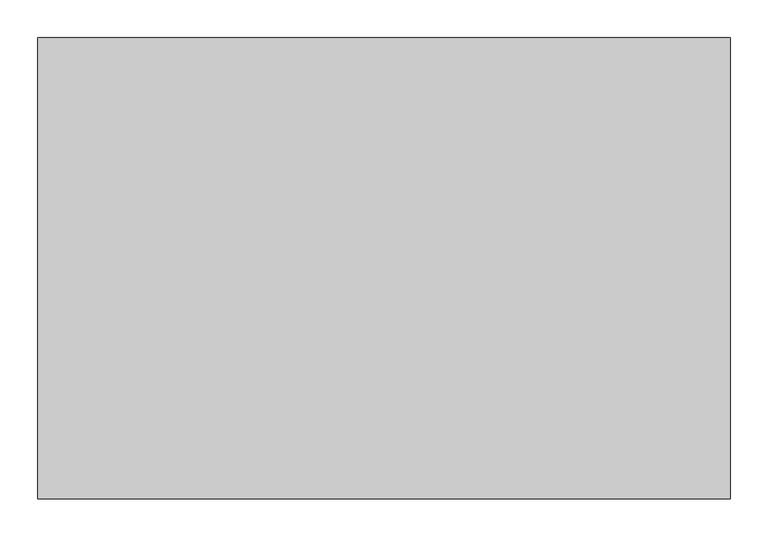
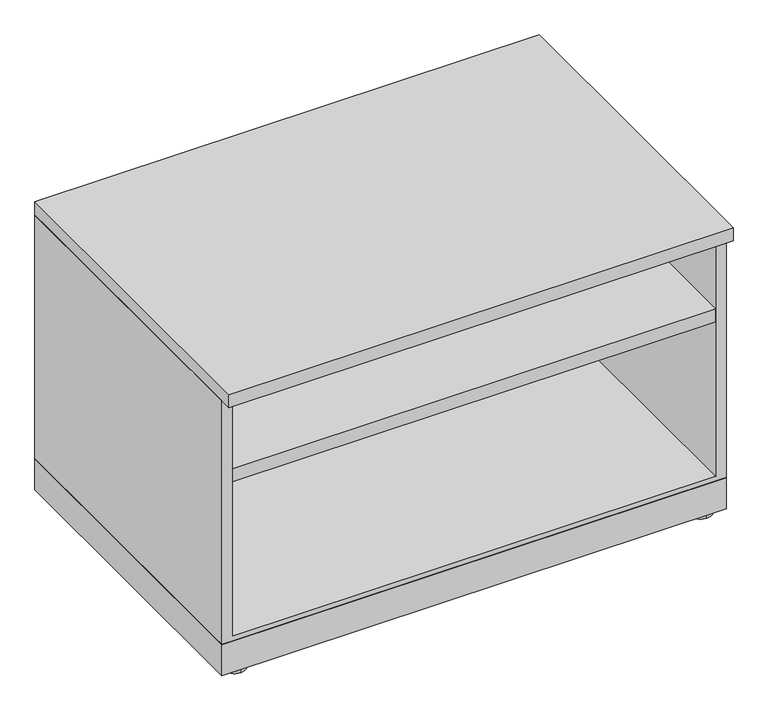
"""IFC4 building model written with IfcOpenShell, lengths in millimetres: furniture geometry, Steelcase - Universal Storage - Lateral File - 1.5 High - Proud Front : Open/Open - 24D x 36W."""

from ifc_helpers import new_model, si_unit, point, frame, frame_2d, origin, origin_with_axes, place, context, project, spatial, polyline, circle_curve, trimmed, segment, composite_curve, outline, extrude, source, transform, mapped, element, save


def furniture_4daecc05(model_context):
    return source(origin(), model_context, "Body", "SweptSolid", [
        extrude(outline(polyline([(914.4, 0.0), (914.4, -587.502), (0.0, -587.502), (0.0, 0.0), (914.4, 0.0)])), frame((0.0, 0.0, 6.3500002), z_axis=(0.0, 0.0, 1.0), x_axis=(1.0, 0.0, 0.0)), (0.0, 0.0, 1.0), 59.6899998),
        extrude(outline(composite_curve([segment(trimmed(circle_curve(frame_2d((879.7290058, -22.3366334)), 20.32), [point((879.7290058, -42.6566334))], [point((879.7290058, -2.0166334))], False, "CARTESIAN"), True, "CONTINUOUS"), segment(trimmed(circle_curve(frame_2d((879.7290058, -22.3366334)), 20.32), [point((879.7290058, -2.0166334))], [point((879.7290058, -42.6566334))], False, "CARTESIAN"), True, "CONTINUOUS")], self_intersect=False)), origin_with_axes(), (0.0, 0.0, 1.0), 6.3500002),
        extrude(outline(composite_curve([segment(trimmed(circle_curve(frame_2d((879.7290058, -566.7528545)), 20.32), [point((879.7290058, -587.0728545))], [point((879.7290058, -546.4328545))], False, "CARTESIAN"), True, "CONTINUOUS"), segment(trimmed(circle_curve(frame_2d((879.7290058, -566.7528545)), 20.32), [point((879.7290058, -546.4328545))], [point((879.7290058, -587.0728545))], False, "CARTESIAN"), True, "CONTINUOUS")], self_intersect=False)), origin_with_axes(), (0.0, 0.0, 1.0), 6.3500002),
        extrude(outline(composite_curve([segment(trimmed(circle_curve(frame_2d((34.29, -22.3366334)), 20.32), [point((34.29, -2.0166334))], [point((34.29, -42.6566334))], False, "CARTESIAN"), True, "CONTINUOUS"), segment(trimmed(circle_curve(frame_2d((34.29, -22.3366334)), 20.32), [point((34.29, -42.6566334))], [point((34.29, -2.0166334))], False, "CARTESIAN"), True, "CONTINUOUS")], self_intersect=False)), origin_with_axes(), (0.0, 0.0, 1.0), 6.3500002),
        extrude(outline(composite_curve([segment(trimmed(circle_curve(frame_2d((34.29, -566.7528545)), 20.32), [point((34.29, -546.4328545))], [point((34.29, -587.0728545))], False, "CARTESIAN"), True, "CONTINUOUS"), segment(trimmed(circle_curve(frame_2d((34.29, -566.7528545)), 20.32), [point((34.29, -587.0728545))], [point((34.29, -546.4328545))], False, "CARTESIAN"), True, "CONTINUOUS")], self_intersect=False)), origin_with_axes(), (0.0, 0.0, 1.0), 6.3500002),
        extrude(outline(polyline([(533.273, 19.05), (533.273, 0.0), (66.04, 0.0), (66.04, 914.4), (533.273, 914.4), (533.273, 895.35), (75.184001, 895.35), (75.184001, 19.05), (533.273, 19.05)])), frame((0.0, -587.3750121, 0.0), z_axis=(0.0, 1.0, 0.0), x_axis=(0.0, 0.0, 1.0)), (0.0, 0.0, 1.0), 587.3750121),
        extrude(outline(polyline([(895.35, 0.0), (895.35, -3.9370001), (19.05, -3.9370001), (19.05, 0.0), (895.35, 0.0)])), frame((0.0, 0.0, 75.184001), z_axis=(0.0, 0.0, 1.0), x_axis=(1.0, 0.0, 0.0)), (0.0, 0.0, 1.0), 458.088999),
        extrude(outline(polyline([(-16.1036001, 371.5511945), (-587.3750121, 371.5511945), (-587.3750121, 396.8242158), (-19.2785993, 396.8242158), (-19.2785993, 410.7941843), (-16.1036001, 410.7941843), (-16.1036001, 371.5511945)])), frame((19.05, 0.0, 0.0), z_axis=(1.0, 0.0, 0.0), x_axis=(0.0, 1.0, 0.0)), (0.0, 0.0, 1.0), 876.3),
        extrude(outline(polyline([(914.4, 0.0), (914.4, -609.6), (0.0, -609.6), (0.0, 0.0), (914.4, 0.0)])), frame((0.0, 0.0, 533.273), z_axis=(0.0, 0.0, 1.0), x_axis=(1.0, 0.0, 0.0)), (0.0, 0.0, 1.0), 25.399985),
    ])


if __name__ == "__main__":
    model = new_model("IFC4")
    model_context = context("Model", 3, world=origin())
    ifc_project = project(units=[si_unit("LENGTHUNIT", "METRE", prefix="MILLI")], contexts=[model_context])
    site = spatial("IfcSite", under=ifc_project)
    building = spatial("IfcBuilding", under=site)
    placement = place(None, origin())
    furniture_shape = furniture_4daecc05(model_context)
    element("IfcFurniture", 1, ObjectType="Steelcase - Universal Storage - Lateral File - 1.5 High - Proud Front : Open/Open - 24D x 36W", at=placement, inside=building, context=model_context, shape_type="MappedRepresentation", body=[
        mapped(furniture_shape, transform((0.0, 0.0, 0.0), x_axis=(1.0, 0.0, 0.0), y_axis=(0.0, 1.0, 0.0), z_axis=(0.0, 0.0, 1.0))),
    ])
    save(model, "model.ifc")
